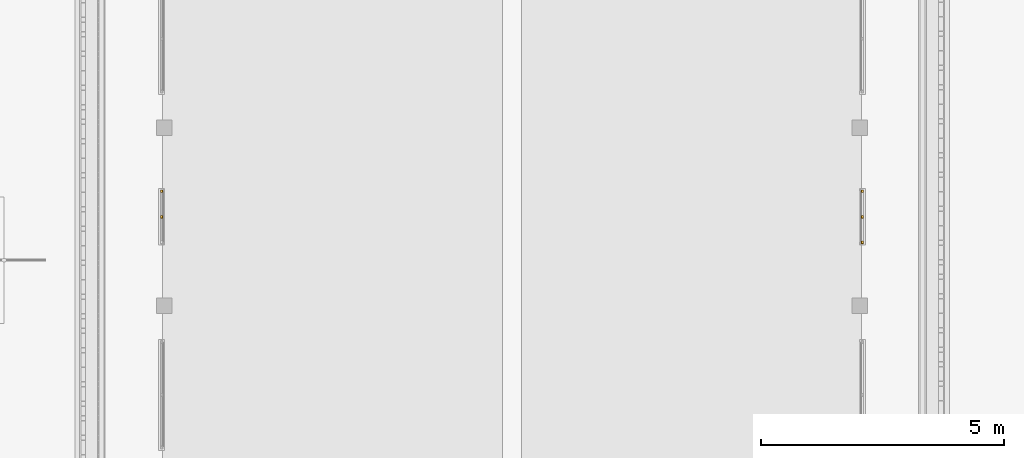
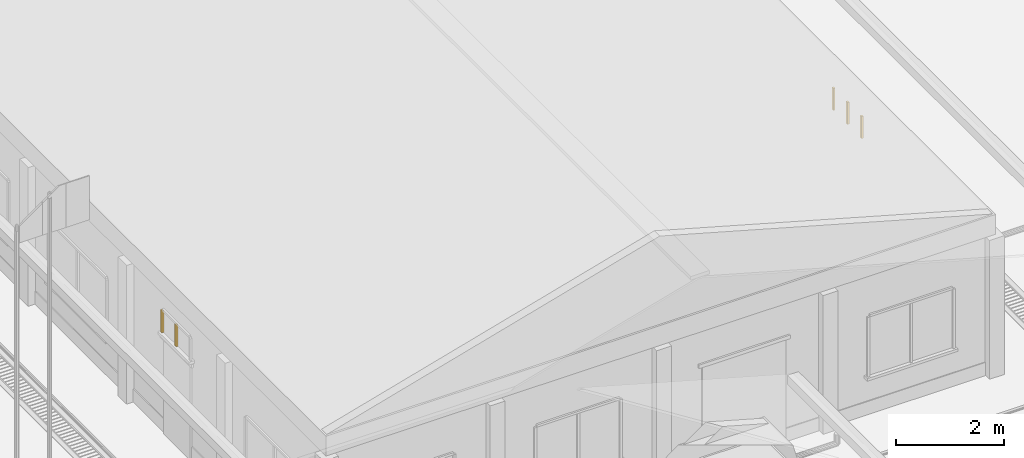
# One storey, part 75 of 166: 5 windows.
"""IFC2X3 building model written with IfcOpenShell, lengths in metres."""

from ifc_helpers import new_model, si_unit, origin, origin_with_axes, place, context, subcontext, project, spatial, faceted_brep, element, save


model = new_model("IFC2X3")

# Units and contexts
model_context = context("Model", 3, precision=1e-05, world=origin_with_axes())
body_context = subcontext(model_context, "Body", "Model", "MODEL_VIEW")
ifc_project = project(units=[si_unit("LENGTHUNIT", "METRE"), si_unit("AREAUNIT", "SQUARE_METRE"), si_unit("VOLUMEUNIT", "CUBIC_METRE"), si_unit("PLANEANGLEUNIT", "RADIAN")], contexts=[model_context])

# Site, building, storey
site_placement = place(None, origin_with_axes())
site = spatial("IfcSite", under=ifc_project, at=site_placement, Name="Predio Los Mangos - Morales, San Martín", CompositionType="ELEMENT")
building_placement = place(site_placement, origin())
building = spatial("IfcBuilding", under=site, at=building_placement, Name="Hogar de Refugio Temporal", CompositionType="ELEMENT")
storey_placement = place(building_placement, origin())
storey = spatial("IfcBuildingStorey", under=building, at=storey_placement, Name="NIVEL 1 (NPT +0.00)", CompositionType="ELEMENT", Elevation=0.0)

# Windows
window_1_placement = place(storey_placement, origin())
element("IfcWindow", 1, at=window_1_placement, inside=storey, Name="E-05_vt1_m", ObjectType="Ventana", context=body_context, shape_type="Brep", body=[
    faceted_brep([(45.22, 63.8937, 2.45), (45.22, 63.9437, 2.45), (45.26, 63.9437, 2.45), (45.26, 63.8937, 2.45), (45.22, 63.8937, 2.95), (45.26, 63.8937, 2.95), (45.26, 63.9437, 2.95), (45.22, 63.9437, 2.95)], [[[0, 1, 2, 3]], [[4, 5, 6, 7]], [[0, 3, 5, 4]], [[3, 2, 6, 5]], [[2, 1, 7, 6]], [[1, 0, 4, 7]]]),
])
window_2_placement = place(storey_placement, origin())
element("IfcWindow", 2, at=window_2_placement, inside=storey, Name="E-05_vt1_m", ObjectType="Ventana", context=body_context, shape_type="Brep", body=[
    faceted_brep([(45.22, 63.3688, 2.45), (45.22, 63.4188, 2.45), (45.26, 63.4188, 2.45), (45.26, 63.3688, 2.45), (45.22, 63.3688, 2.95), (45.26, 63.3688, 2.95), (45.26, 63.4188, 2.95), (45.22, 63.4188, 2.95)], [[[0, 1, 2, 3]], [[4, 5, 6, 7]], [[0, 3, 5, 4]], [[3, 2, 6, 5]], [[2, 1, 7, 6]], [[1, 0, 4, 7]]]),
])
window_3_placement = place(storey_placement, origin())
element("IfcWindow", 3, at=window_3_placement, inside=storey, Name="E-05_vt1_m", ObjectType="Ventana", context=body_context, shape_type="Brep", body=[
    faceted_brep([(59.64, 62.8438, 2.45), (59.64, 62.8937, 2.45), (59.68, 62.8937, 2.45), (59.68, 62.8438, 2.45), (59.64, 62.8438, 2.95), (59.68, 62.8438, 2.95), (59.68, 62.8937, 2.95), (59.64, 62.8937, 2.95)], [[[0, 1, 2, 3]], [[4, 5, 6, 7]], [[0, 3, 5, 4]], [[3, 2, 6, 5]], [[2, 1, 7, 6]], [[1, 0, 4, 7]]]),
])
window_4_placement = place(storey_placement, origin())
element("IfcWindow", 4, at=window_4_placement, inside=storey, Name="E-05_vt1_m", ObjectType="Ventana", context=body_context, shape_type="Brep", body=[
    faceted_brep([(59.64, 63.8937, 2.45), (59.64, 63.9437, 2.45), (59.68, 63.9437, 2.45), (59.68, 63.8937, 2.45), (59.64, 63.8937, 2.95), (59.68, 63.8937, 2.95), (59.68, 63.9437, 2.95), (59.64, 63.9437, 2.95)], [[[0, 1, 2, 3]], [[4, 5, 6, 7]], [[0, 3, 5, 4]], [[3, 2, 6, 5]], [[2, 1, 7, 6]], [[1, 0, 4, 7]]]),
])
window_5_placement = place(storey_placement, origin())
element("IfcWindow", 5, at=window_5_placement, inside=storey, Name="E-05_vt1_m", ObjectType="Ventana", context=body_context, shape_type="Brep", body=[
    faceted_brep([(59.64, 63.3688, 2.45), (59.64, 63.4188, 2.45), (59.68, 63.4188, 2.45), (59.68, 63.3688, 2.45), (59.64, 63.3688, 2.95), (59.68, 63.3688, 2.95), (59.68, 63.4188, 2.95), (59.64, 63.4188, 2.95)], [[[0, 1, 2, 3]], [[4, 5, 6, 7]], [[0, 3, 5, 4]], [[3, 2, 6, 5]], [[2, 1, 7, 6]], [[1, 0, 4, 7]]]),
])

save(model, "model.ifc")
